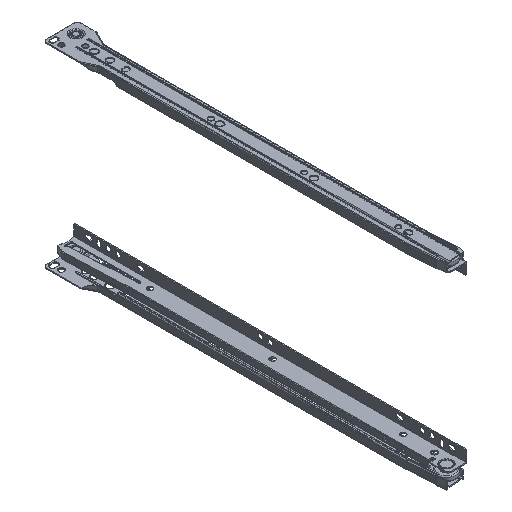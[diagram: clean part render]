
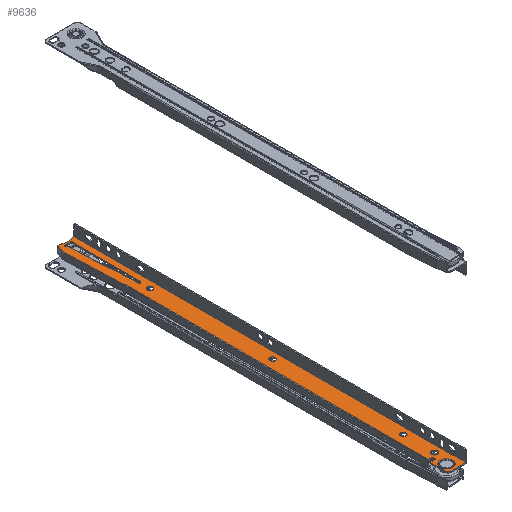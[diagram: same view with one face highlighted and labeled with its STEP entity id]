
A CAD part, isometric view. The second image highlights one B-rep face of the part: STEP entity #9636.
In plain terms, the highlighted planar face has unit normal (0, 0, 1) as drawn and (0, 0, -1) by its records, which use the part's own axes.
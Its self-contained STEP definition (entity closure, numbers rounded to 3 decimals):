
#515=FACE_BOUND('',#2344,.T.);
#516=FACE_BOUND('',#2345,.T.);
#517=FACE_BOUND('',#2346,.T.);
#518=FACE_BOUND('',#2347,.T.);
#519=FACE_BOUND('',#2348,.T.);
#520=FACE_BOUND('',#2349,.T.);
#844=CIRCLE('',#10461,2.75);
#846=CIRCLE('',#10464,17.5);
#872=CIRCLE('',#10506,9.5);
#873=CIRCLE('',#10513,1.);
#874=CIRCLE('',#10514,1.);
#875=CIRCLE('',#10515,1.);
#876=CIRCLE('',#10516,3.);
#877=CIRCLE('',#10517,2.75);
#878=CIRCLE('',#10518,2.75);
#879=CIRCLE('',#10519,6.25);
#880=CIRCLE('',#10520,2.75);
#881=CIRCLE('',#10521,1.03);
#1124=ELLIPSE('',#10522,4.383,1.);
#1674=FACE_OUTER_BOUND('',#2343,.T.);
#2343=EDGE_LOOP('',(#8002,#8003,#8004,#8005,#8006,#8007,#8008,#8009,#8010,
#8011,#8012,#8013,#8014,#8015,#8016,#8017,#8018));
#2344=EDGE_LOOP('',(#8019));
#2345=EDGE_LOOP('',(#8020));
#2346=EDGE_LOOP('',(#8021));
#2347=EDGE_LOOP('',(#8022));
#2348=EDGE_LOOP('',(#8023));
#2349=EDGE_LOOP('',(#8024,#8025,#8026,#8027));
#3117=LINE('',#15762,#3906);
#3134=LINE('',#15828,#3923);
#3151=LINE('',#15889,#3940);
#3154=LINE('',#15901,#3943);
#3159=LINE('',#15910,#3948);
#3161=LINE('',#15917,#3950);
#3162=LINE('',#15921,#3951);
#3163=LINE('',#15925,#3952);
#3164=LINE('',#15929,#3953);
#3165=LINE('',#15931,#3954);
#3166=LINE('',#15932,#3955);
#3167=LINE('',#15945,#3956);
#3168=LINE('',#15948,#3957);
#3906=VECTOR('',#12518,10.);
#3923=VECTOR('',#12575,10.);
#3940=VECTOR('',#12638,10.);
#3943=VECTOR('',#12653,10.);
#3948=VECTOR('',#12664,10.);
#3950=VECTOR('',#12672,10.);
#3951=VECTOR('',#12675,10.);
#3952=VECTOR('',#12678,10.);
#3953=VECTOR('',#12681,10.);
#3954=VECTOR('',#12682,10.);
#3955=VECTOR('',#12683,10.);
#3956=VECTOR('',#12694,10.);
#3957=VECTOR('',#12697,10.);
#4722=VERTEX_POINT('',#15733);
#4732=VERTEX_POINT('',#15760);
#4734=VERTEX_POINT('',#15766);
#4735=VERTEX_POINT('',#15769);
#4738=VERTEX_POINT('',#15774);
#4761=VERTEX_POINT('',#15826);
#4782=VERTEX_POINT('',#15888);
#4785=VERTEX_POINT('',#15895);
#4786=VERTEX_POINT('',#15908);
#4787=VERTEX_POINT('',#15914);
#4788=VERTEX_POINT('',#15916);
#4789=VERTEX_POINT('',#15918);
#4790=VERTEX_POINT('',#15920);
#4791=VERTEX_POINT('',#15922);
#4792=VERTEX_POINT('',#15924);
#4793=VERTEX_POINT('',#15926);
#4794=VERTEX_POINT('',#15928);
#4795=VERTEX_POINT('',#15930);
#4796=VERTEX_POINT('',#15933);
#4797=VERTEX_POINT('',#15935);
#4798=VERTEX_POINT('',#15937);
#4799=VERTEX_POINT('',#15939);
#4800=VERTEX_POINT('',#15941);
#4801=VERTEX_POINT('',#15942);
#4802=VERTEX_POINT('',#15944);
#4803=VERTEX_POINT('',#15946);
#5861=EDGE_CURVE('',#4722,#4732,#3117,.T.);
#5863=EDGE_CURVE('',#4734,#4734,#844,.T.);
#5867=EDGE_CURVE('',#4738,#4735,#846,.T.);
#5894=EDGE_CURVE('',#4761,#4738,#3134,.T.);
#5923=EDGE_CURVE('',#4782,#4722,#3151,.T.);
#5928=EDGE_CURVE('',#4785,#4782,#872,.T.);
#5930=EDGE_CURVE('',#4761,#4785,#3154,.T.);
#5935=EDGE_CURVE('',#4786,#4732,#3159,.T.);
#5937=EDGE_CURVE('',#4787,#4786,#873,.T.);
#5938=EDGE_CURVE('',#4788,#4787,#3161,.T.);
#5939=EDGE_CURVE('',#4789,#4788,#874,.T.);
#5940=EDGE_CURVE('',#4790,#4789,#3162,.T.);
#5941=EDGE_CURVE('',#4791,#4790,#875,.T.);
#5942=EDGE_CURVE('',#4792,#4791,#3163,.T.);
#5943=EDGE_CURVE('',#4793,#4792,#876,.T.);
#5944=EDGE_CURVE('',#4794,#4793,#3164,.T.);
#5945=EDGE_CURVE('',#4795,#4794,#3165,.T.);
#5946=EDGE_CURVE('',#4735,#4795,#3166,.T.);
#5947=EDGE_CURVE('',#4796,#4796,#877,.T.);
#5948=EDGE_CURVE('',#4797,#4797,#878,.T.);
#5949=EDGE_CURVE('',#4798,#4798,#879,.T.);
#5950=EDGE_CURVE('',#4799,#4799,#880,.T.);
#5951=EDGE_CURVE('',#4800,#4801,#881,.T.);
#5952=EDGE_CURVE('',#4802,#4800,#3167,.T.);
#5953=EDGE_CURVE('',#4803,#4802,#1124,.T.);
#5954=EDGE_CURVE('',#4801,#4803,#3168,.T.);
#8002=ORIENTED_EDGE('',*,*,#5867,.F.);
#8003=ORIENTED_EDGE('',*,*,#5894,.F.);
#8004=ORIENTED_EDGE('',*,*,#5930,.T.);
#8005=ORIENTED_EDGE('',*,*,#5928,.T.);
#8006=ORIENTED_EDGE('',*,*,#5923,.T.);
#8007=ORIENTED_EDGE('',*,*,#5861,.T.);
#8008=ORIENTED_EDGE('',*,*,#5935,.F.);
#8009=ORIENTED_EDGE('',*,*,#5937,.F.);
#8010=ORIENTED_EDGE('',*,*,#5938,.F.);
#8011=ORIENTED_EDGE('',*,*,#5939,.F.);
#8012=ORIENTED_EDGE('',*,*,#5940,.F.);
#8013=ORIENTED_EDGE('',*,*,#5941,.F.);
#8014=ORIENTED_EDGE('',*,*,#5942,.F.);
#8015=ORIENTED_EDGE('',*,*,#5943,.F.);
#8016=ORIENTED_EDGE('',*,*,#5944,.F.);
#8017=ORIENTED_EDGE('',*,*,#5945,.F.);
#8018=ORIENTED_EDGE('',*,*,#5946,.F.);
#8019=ORIENTED_EDGE('',*,*,#5863,.F.);
#8020=ORIENTED_EDGE('',*,*,#5947,.F.);
#8021=ORIENTED_EDGE('',*,*,#5948,.F.);
#8022=ORIENTED_EDGE('',*,*,#5949,.F.);
#8023=ORIENTED_EDGE('',*,*,#5950,.F.);
#8024=ORIENTED_EDGE('',*,*,#5951,.F.);
#8025=ORIENTED_EDGE('',*,*,#5952,.F.);
#8026=ORIENTED_EDGE('',*,*,#5953,.F.);
#8027=ORIENTED_EDGE('',*,*,#5954,.F.);
#9202=PLANE('',#10512);
#9636=ADVANCED_FACE('',(#1674,#515,#516,#517,#518,#519,#520),#9202,.T.);
#10461=AXIS2_PLACEMENT_3D('',#15767,#12523,#12524);
#10464=AXIS2_PLACEMENT_3D('',#15776,#12531,#12532);
#10506=AXIS2_PLACEMENT_3D('',#15898,#12648,#12649);
#10512=AXIS2_PLACEMENT_3D('',#15913,#12668,#12669);
#10513=AXIS2_PLACEMENT_3D('',#15915,#12670,#12671);
#10514=AXIS2_PLACEMENT_3D('',#15919,#12673,#12674);
#10515=AXIS2_PLACEMENT_3D('',#15923,#12676,#12677);
#10516=AXIS2_PLACEMENT_3D('',#15927,#12679,#12680);
#10517=AXIS2_PLACEMENT_3D('',#15934,#12684,#12685);
#10518=AXIS2_PLACEMENT_3D('',#15936,#12686,#12687);
#10519=AXIS2_PLACEMENT_3D('',#15938,#12688,#12689);
#10520=AXIS2_PLACEMENT_3D('',#15940,#12690,#12691);
#10521=AXIS2_PLACEMENT_3D('',#15943,#12692,#12693);
#10522=AXIS2_PLACEMENT_3D('',#15947,#12695,#12696);
#12518=DIRECTION('',(-1.,0.,0.));
#12523=DIRECTION('center_axis',(0.,0.,-1.));
#12524=DIRECTION('ref_axis',(-1.,0.,0.));
#12531=DIRECTION('center_axis',(0.,0.,-1.));
#12532=DIRECTION('ref_axis',(-1.,0.,0.));
#12575=DIRECTION('',(0.,1.,0.));
#12638=DIRECTION('',(-0.999,0.04,0.));
#12648=DIRECTION('center_axis',(0.,0.,-1.));
#12649=DIRECTION('ref_axis',(0.141,-0.99,0.));
#12653=DIRECTION('',(-0.948,-0.318,0.));
#12664=DIRECTION('',(0.,-1.,0.));
#12668=DIRECTION('center_axis',(0.,0.,-1.));
#12669=DIRECTION('ref_axis',(1.,0.,0.));
#12670=DIRECTION('center_axis',(0.,0.,-1.));
#12671=DIRECTION('ref_axis',(0.,1.,0.));
#12672=DIRECTION('',(1.,0.,0.));
#12673=DIRECTION('center_axis',(0.,0.,-1.));
#12674=DIRECTION('ref_axis',(-1.,0.,0.));
#12675=DIRECTION('',(0.,1.,0.));
#12676=DIRECTION('center_axis',(0.,0.,1.));
#12677=DIRECTION('ref_axis',(-1.,0.,0.));
#12678=DIRECTION('',(1.,0.,0.));
#12679=DIRECTION('center_axis',(0.,0.,1.));
#12680=DIRECTION('ref_axis',(0.,1.,0.));
#12681=DIRECTION('',(0.,-1.,0.));
#12682=DIRECTION('',(-1.,0.,0.));
#12683=DIRECTION('',(0.,1.,0.));
#12684=DIRECTION('center_axis',(0.,0.,-1.));
#12685=DIRECTION('ref_axis',(-1.,0.,0.));
#12686=DIRECTION('center_axis',(0.,0.,-1.));
#12687=DIRECTION('ref_axis',(-1.,0.,0.));
#12688=DIRECTION('center_axis',(0.,0.,-1.));
#12689=DIRECTION('ref_axis',(-1.,0.,0.));
#12690=DIRECTION('center_axis',(0.,0.,-1.));
#12691=DIRECTION('ref_axis',(-1.,0.,0.));
#12692=DIRECTION('center_axis',(0.,0.,-1.));
#12693=DIRECTION('ref_axis',(1.,-0.03,0.));
#12694=DIRECTION('',(-0.998,0.061,0.));
#12695=DIRECTION('center_axis',(0.,0.,-1.));
#12696=DIRECTION('ref_axis',(-0.03,-1.,0.));
#12697=DIRECTION('',(1.,0.,0.));
#15733=CARTESIAN_POINT('',(293.766,-28.491,0.));
#15760=CARTESIAN_POINT('',(-9.244,-28.491,0.));
#15762=CARTESIAN_POINT('',(79.122,-28.491,0.));
#15766=CARTESIAN_POINT('',(-3.494,-18.991,0.));
#15767=CARTESIAN_POINT('Origin',(-6.244,-18.991,0.));
#15769=CARTESIAN_POINT('',(368.756,-12.193,0.));
#15774=CARTESIAN_POINT('',(368.756,-26.737,0.));
#15776=CARTESIAN_POINT('Origin',(384.674,-19.465,0.));
#15826=CARTESIAN_POINT('',(368.756,-28.464,0.));
#15828=CARTESIAN_POINT('',(368.756,-31.991,0.));
#15888=CARTESIAN_POINT('',(358.941,-31.098,0.));
#15889=CARTESIAN_POINT('',(230.568,-25.963,0.));
#15895=CARTESIAN_POINT('',(362.339,-30.614,0.));
#15898=CARTESIAN_POINT('Origin',(359.321,-21.606,0.));
#15901=CARTESIAN_POINT('',(275.435,-59.726,0.));
#15908=CARTESIAN_POINT('',(-9.244,-24.991,0.));
#15910=CARTESIAN_POINT('',(-9.244,-24.991,0.));
#15913=CARTESIAN_POINT('Origin',(167.488,-20.24,0.));
#15914=CARTESIAN_POINT('',(-10.244,-23.991,0.));
#15915=CARTESIAN_POINT('Origin',(-10.244,-24.991,0.));
#15916=CARTESIAN_POINT('',(-11.244,-23.991,0.));
#15917=CARTESIAN_POINT('',(-11.244,-23.991,0.));
#15918=CARTESIAN_POINT('',(-12.244,-24.991,0.));
#15919=CARTESIAN_POINT('Origin',(-11.244,-24.991,0.));
#15920=CARTESIAN_POINT('',(-12.244,-28.991,0.));
#15921=CARTESIAN_POINT('',(-12.244,-28.991,0.));
#15922=CARTESIAN_POINT('',(-13.244,-29.991,0.));
#15923=CARTESIAN_POINT('Origin',(-13.244,-28.991,0.));
#15924=CARTESIAN_POINT('',(-28.244,-29.991,0.));
#15925=CARTESIAN_POINT('',(-28.244,-29.991,0.));
#15926=CARTESIAN_POINT('',(-31.244,-26.991,0.));
#15927=CARTESIAN_POINT('Origin',(-28.244,-26.991,0.));
#15928=CARTESIAN_POINT('',(-31.244,-11.991,0.));
#15929=CARTESIAN_POINT('',(-31.244,-10.991,0.));
#15930=CARTESIAN_POINT('',(368.756,-11.991,0.));
#15931=CARTESIAN_POINT('',(168.122,-11.991,0.));
#15932=CARTESIAN_POINT('',(368.756,-31.991,0.));
#15933=CARTESIAN_POINT('',(28.506,-18.991,0.));
#15934=CARTESIAN_POINT('Origin',(25.756,-18.991,0.));
#15935=CARTESIAN_POINT('',(161.506,-18.991,0.));
#15936=CARTESIAN_POINT('Origin',(158.756,-18.991,0.));
#15937=CARTESIAN_POINT('',(-15.994,-22.991,0.));
#15938=CARTESIAN_POINT('Origin',(-22.244,-22.991,0.));
#15939=CARTESIAN_POINT('',(286.506,-18.991,0.));
#15940=CARTESIAN_POINT('Origin',(283.756,-18.991,0.));
#15941=CARTESIAN_POINT('',(294.693,-20.049,0.));
#15942=CARTESIAN_POINT('',(294.756,-17.992,0.));
#15943=CARTESIAN_POINT('Origin',(294.756,-19.021,0.));
#15944=CARTESIAN_POINT('',(363.929,-24.249,0.));
#15945=CARTESIAN_POINT('',(265.947,-18.306,0.));
#15946=CARTESIAN_POINT('',(364.119,-17.992,0.));
#15947=CARTESIAN_POINT('Origin',(364.724,-21.142,0.));
#15948=CARTESIAN_POINT('',(231.122,-17.992,0.));
